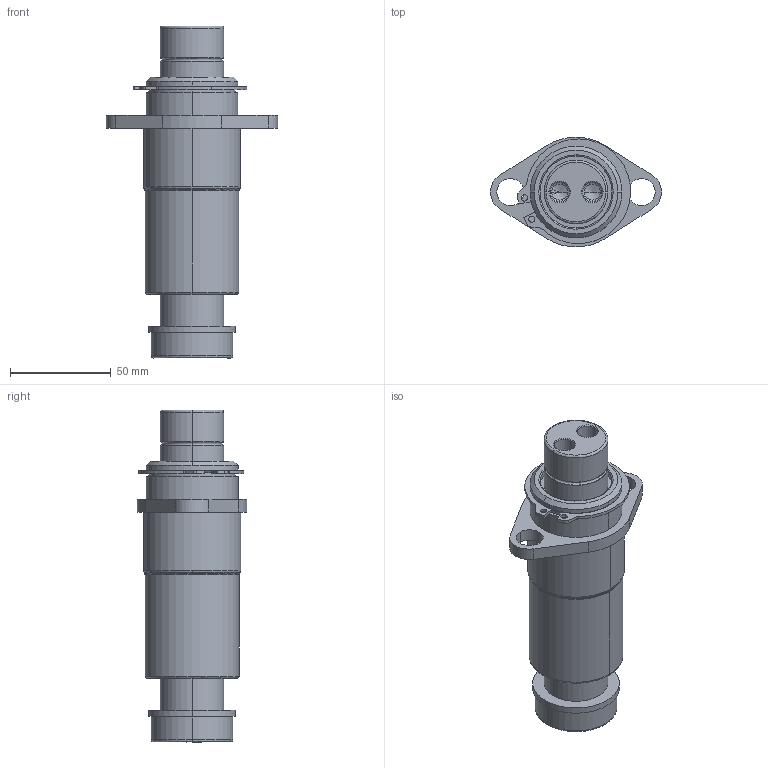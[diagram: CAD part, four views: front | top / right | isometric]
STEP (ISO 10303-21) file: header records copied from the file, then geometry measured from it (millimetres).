
FILE_DESCRIPTION (( 'STEP AP214' ), '1' );
FILE_NAME ('GK122-N4-1-TB-E-XXX.STEP', '2020-09-21T18:44:57', ( '' ), ( '' ), 'SwSTEP 2.0', 'SolidWorks 2017', '' );
FILE_SCHEMA (( 'AUTOMOTIVE_DESIGN' ));
Length unit declared in the file: inch
Products named in the file (7): GK122-DampeningWasher; GK122-N4-1-TB-E-XXX; RetainingRing; GK1.25-N4-1-TB-Base; GK122-E-XXX-GuidePin
Assembly tree (6 placements, depth 3):
  GK122-N4-1-TB-E-XXX
    GK1.25-N4-1-TB-Base
      GK1.25-N4-1-TB-Base
      RetainingRing
    GK122-E-XXX-GuidePin
      GK122-E-XXX-GuidePin
      GK122-DampeningWasher
Bounding box: 85.09 x 54.52 x 165.1 mm (x, y, z)
Volume: 240834.4 mm3; surface area: 57227.3 mm2
Topology: 4 solids, 4 shells, 125 faces, 289 edges, 176 vertices
Faces by surface type: cylinder 59, plane 24, cone 22, bspline 20
Entity records: 4532 total; most frequent: CARTESIAN_POINT 1229, DIRECTION 671, ORIENTED_EDGE 570, EDGE_CURVE 285, AXIS2_PLACEMENT_3D 280, VERTEX_POINT 176, CIRCLE 164, EDGE_LOOP 145
